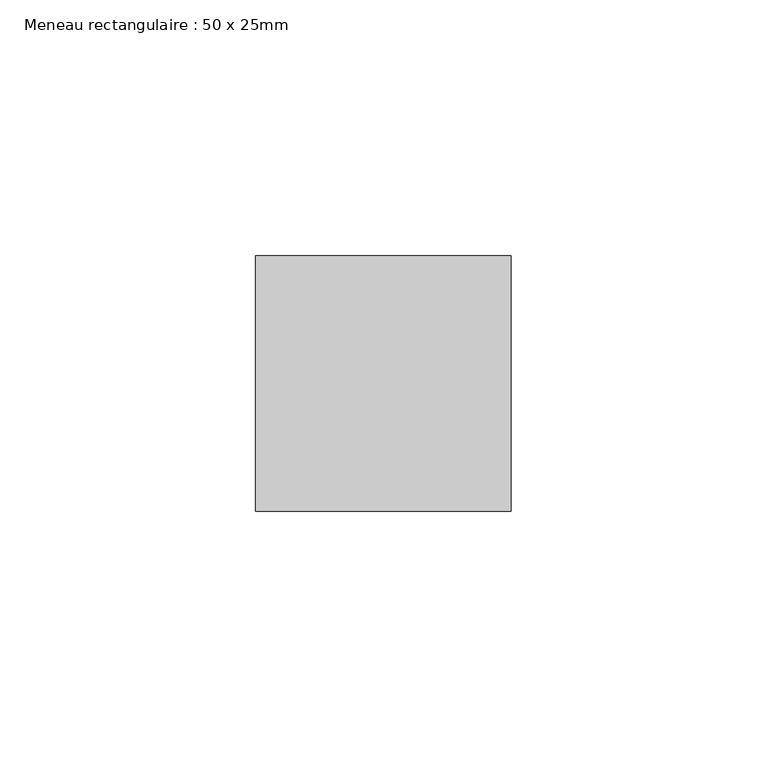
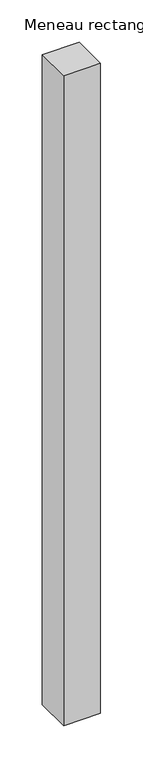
"""IFC4 building model written with IfcOpenShell, lengths in millimetres: member geometry, Meneau rectangulaire : 50 x 25mm."""

import ifcopenshell
import ifcopenshell.guid

model = None  # the IFC model being written
_history = None  # IfcOwnerHistory: only IFC2X3 demands one
_inside = {}  # id of a spatial element -> (the spatial element, [elements in it])
_under = {}  # id of a project, library or spatial element -> (it, [spatial elements below it])
_declared = {}  # id of a project -> (the project, [libraries it declares])
_typed = {}  # id of a type object -> (the type object, [elements of that type])
_made_of = {}  # id of a material, layer set ... -> (it, [elements and type objects made of it])


def new_model(schema):
    """Start an empty IFC model of exactly this schema.

    Asked for "IFC4X3", IfcOpenShell would pick the latest addendum, in which some entities
    have other attributes; the version numbers below select the first issue.
    IFC2X3 requires an IfcOwnerHistory on every rooted entity: one is made here for all.
    """
    global model, _history
    if schema == "IFC4X3":
        model = ifcopenshell.file(schema_version=(4, 3, 0, 0))
    else:
        model = ifcopenshell.file(schema=schema)
    _inside.clear()
    _under.clear()
    _declared.clear()
    _typed.clear()
    _made_of.clear()
    _history = None
    if model.schema == "IFC2X3":
        org = make("IfcOrganization", Name="unknown")
        user = make(
            "IfcPersonAndOrganization",
            ThePerson=make("IfcPerson", FamilyName="unknown"),
            TheOrganization=org,
        )
        app = make(
            "IfcApplication",
            ApplicationDeveloper=org,
            Version="unknown",
            ApplicationFullName="unknown",
            ApplicationIdentifier="unknown",
        )
        _history = make(
            "IfcOwnerHistory",
            OwningUser=user,
            OwningApplication=app,
            ChangeAction="ADDED",
            CreationDate=0,
        )
    return model


def make(cls, **values):
    """One entity of the class cls with the attributes given. An attribute that is None is left unset."""
    return model.create_entity(
        cls, **{name: value for name, value in values.items() if value is not None}
    )


def rooted(cls, **values):
    """An entity with a GlobalId (a new one), such as an element, a storey or a relation."""
    return make(cls, GlobalId=ifcopenshell.guid.new(), OwnerHistory=_history, **values)


def si_unit(unit_type, name, prefix=None):
    """IfcSIUnit, for example si_unit("LENGTHUNIT", "METRE", prefix="MILLI")."""
    return make("IfcSIUnit", UnitType=unit_type, Prefix=prefix, Name=name)


def assignment(units):
    """IfcUnitAssignment: the units of a project."""
    return None if units is None else make("IfcUnitAssignment", Units=units)


def point(xyz):
    """IfcCartesianPoint."""
    return None if xyz is None else make("IfcCartesianPoint", Coordinates=xyz)


def direction(xyz):
    """IfcDirection."""
    return None if xyz is None else make("IfcDirection", DirectionRatios=xyz)


def frame(location, z_axis=None, x_axis=None):
    """IfcAxis2Placement3D, a coordinate frame: its origin and axes. An axis left out is left unset."""
    return make(
        "IfcAxis2Placement3D",
        Location=point(location),
        Axis=direction(z_axis),
        RefDirection=direction(x_axis),
    )


def origin():
    """The frame at (0, 0, 0) with its axes left unset."""
    return frame((0.0, 0.0, 0.0))


def place(relative_to, where):
    """IfcLocalPlacement: puts the frame where relative to a parent placement (None: the world)."""
    return make(
        "IfcLocalPlacement", PlacementRelTo=relative_to, RelativePlacement=where
    )


def context(
    kind, dimensions, precision=None, world=None, true_north=None, identifier=None
):
    """IfcGeometricRepresentationContext, for example the 3D "Model" context."""
    return make(
        "IfcGeometricRepresentationContext",
        ContextIdentifier=identifier,
        ContextType=kind,
        CoordinateSpaceDimension=dimensions,
        Precision=precision,
        WorldCoordinateSystem=world,
        TrueNorth=true_north,
    )


def project(units=None, contexts=None):
    """IfcProject with its units and contexts."""
    return rooted(
        "IfcProject",
        Name="project",
        RepresentationContexts=contexts,
        UnitsInContext=assignment(units),
    )


def spatial(cls, under=None, at=None, **own):
    """A site, building, storey or space (cls), placed at a placement, below another one or the project."""
    s = rooted(cls, ObjectPlacement=at, **own)
    if under is not None:
        _under.setdefault(under.id(), (under, []))[1].append(s)
    return s


def polyline(points):
    """IfcPolyline through the points."""
    return make("IfcPolyline", Points=[point(p) for p in points])


def outline(outer, holes=None, kind="AREA"):
    """IfcArbitraryClosedProfileDef: a profile drawn as a closed curve; with holes, ...WithVoids."""
    if holes is None:
        return make("IfcArbitraryClosedProfileDef", ProfileType=kind, OuterCurve=outer)
    return make(
        "IfcArbitraryProfileDefWithVoids",
        ProfileType=kind,
        OuterCurve=outer,
        InnerCurves=holes,
    )


def extrude(swept, where, along, depth):
    """IfcExtrudedAreaSolid: the profile swept, set in the frame where, extruded along a direction by depth."""
    return make(
        "IfcExtrudedAreaSolid",
        SweptArea=swept,
        Position=where,
        ExtrudedDirection=direction(along),
        Depth=depth,
    )


def shape(context_of_items, identifier, shape_type, items):
    """IfcShapeRepresentation: the items that make up one representation, for example the "Body"."""
    return make(
        "IfcShapeRepresentation",
        ContextOfItems=context_of_items,
        RepresentationIdentifier=identifier,
        RepresentationType=shape_type,
        Items=items,
    )


def source(mapping_origin, context_of_items, identifier, shape_type, items):
    """IfcRepresentationMap: a shape defined once, which mapped items show again and again."""
    return make(
        "IfcRepresentationMap",
        MappingOrigin=mapping_origin,
        MappedRepresentation=shape(context_of_items, identifier, shape_type, items),
    )


def transform(
    local_origin,
    x_axis=None,
    y_axis=None,
    z_axis=None,
    scale=None,
    scale2=None,
    scale3=None,
    uniform=True,
):
    """IfcCartesianTransformationOperator3D, or its non-uniform kind. x_axis, y_axis, z_axis: its Axis1, 2, 3."""
    if uniform:
        return make(
            "IfcCartesianTransformationOperator3D",
            Axis1=direction(x_axis),
            Axis2=direction(y_axis),
            LocalOrigin=point(local_origin),
            Scale=scale,
            Axis3=direction(z_axis),
        )
    return make(
        "IfcCartesianTransformationOperator3DnonUniform",
        Axis1=direction(x_axis),
        Axis2=direction(y_axis),
        LocalOrigin=point(local_origin),
        Scale=scale,
        Axis3=direction(z_axis),
        Scale2=scale2,
        Scale3=scale3,
    )


def mapped(mapping_source, mapping_target):
    """IfcMappedItem: shows the shape of a source again, moved by a transform."""
    return make(
        "IfcMappedItem", MappingSource=mapping_source, MappingTarget=mapping_target
    )


def made_of(thing, what):
    """Note that an element or type object is made of a material, layer set ...; save() writes the relation."""
    if what is not None:
        _made_of.setdefault(what.id(), (what, []))[1].append(thing)
    return thing


def element(
    cls,
    number,
    at=None,
    inside=None,
    cuts=None,
    type_object=None,
    material=None,
    context=None,
    identifier="Body",
    shape_type=None,
    held_by="IfcProductDefinitionShape",
    body=None,
    shapes=None,
    **own,
):
    """One element of the class cls, such as IfcWall. Its Tag is "e" and its number.

    at: its placement. inside: the storey or other place that contains it. cuts: it is an
    opening in that element (IfcRelVoidsElement). A single representation is given by context,
    identifier, shape_type and body (its items); several are given by shapes. held_by: the class
    of the entity that holds the representations. save() writes the other relations.
    """
    e = rooted(cls, Tag="e%d" % number, ObjectPlacement=at, **own)
    if body is not None:
        shapes = [shape(context, identifier, shape_type, body)]
    if shapes is not None:
        e.Representation = make(held_by, Representations=shapes)
    if inside is not None:
        _inside.setdefault(inside.id(), (inside, []))[1].append(e)
    if cuts is not None:
        rooted(
            "IfcRelVoidsElement", RelatingBuildingElement=cuts, RelatedOpeningElement=e
        )
    if type_object is not None:
        _typed.setdefault(type_object.id(), (type_object, []))[1].append(e)
    return made_of(e, material)


def aggregate(whole, parts):
    """IfcRelAggregates: a whole, such as a stair, and the parts it consists of."""
    return rooted("IfcRelAggregates", RelatingObject=whole, RelatedObjects=parts)


def save(model, path):
    """Write the relations noted so far, then the file.

    IfcRelAggregates (storeys below a building ...), IfcRelContainedInSpatialStructure (elements
    in a storey), IfcRelDefinesByType, IfcRelAssociatesMaterial and IfcRelDeclares: one each for
    every whole, place, type object, material and project.
    """
    for whole, parts in _under.values():
        aggregate(whole, parts)
    for where, things in _inside.values():
        rooted(
            "IfcRelContainedInSpatialStructure",
            RelatedElements=things,
            RelatingStructure=where,
        )
    for kind, things in _typed.values():
        rooted("IfcRelDefinesByType", RelatedObjects=things, RelatingType=kind)
    for what, things in _made_of.values():
        rooted("IfcRelAssociatesMaterial", RelatedObjects=things, RelatingMaterial=what)
    for by, libraries in _declared.values():
        rooted("IfcRelDeclares", RelatingContext=by, RelatedDefinitions=libraries)
    model.write(path)


def meneau_rectangulaire_50_x_25mm_29c4bf25(model_context):
    return source(origin(), model_context, "Body", "SweptSolid", [
        extrude(outline(polyline([(25.0, 0.0), (25.0, -50.0), (-25.0, -50.0), (-25.0, 0.0), (25.0, 0.0)])), frame((0.0, 0.0, -936.0), z_axis=(0.0, 0.0, 1.0), x_axis=(1.0, 0.0, 0.0)), (0.0, 0.0, 1.0), 936.0),
    ])


if __name__ == "__main__":
    model = new_model("IFC4")
    model_context = context("Model", 3, world=origin())
    ifc_project = project(units=[si_unit("LENGTHUNIT", "METRE", prefix="MILLI")], contexts=[model_context])
    site = spatial("IfcSite", under=ifc_project)
    building = spatial("IfcBuilding", under=site)
    placement = place(None, origin())
    meneau_rectangulaire_50_x_25mm_shape = meneau_rectangulaire_50_x_25mm_29c4bf25(model_context)
    element("IfcMember", 1, ObjectType="Meneau rectangulaire : 50 x 25mm", at=placement, inside=building, context=model_context, shape_type="MappedRepresentation", body=[
        mapped(meneau_rectangulaire_50_x_25mm_shape, transform((0.0, 0.0, 0.0), x_axis=(1.0, 0.0, 0.0), y_axis=(0.0, 1.0, 0.0), z_axis=(0.0, 0.0, 1.0))),
    ])
    save(model, "model.ifc")
